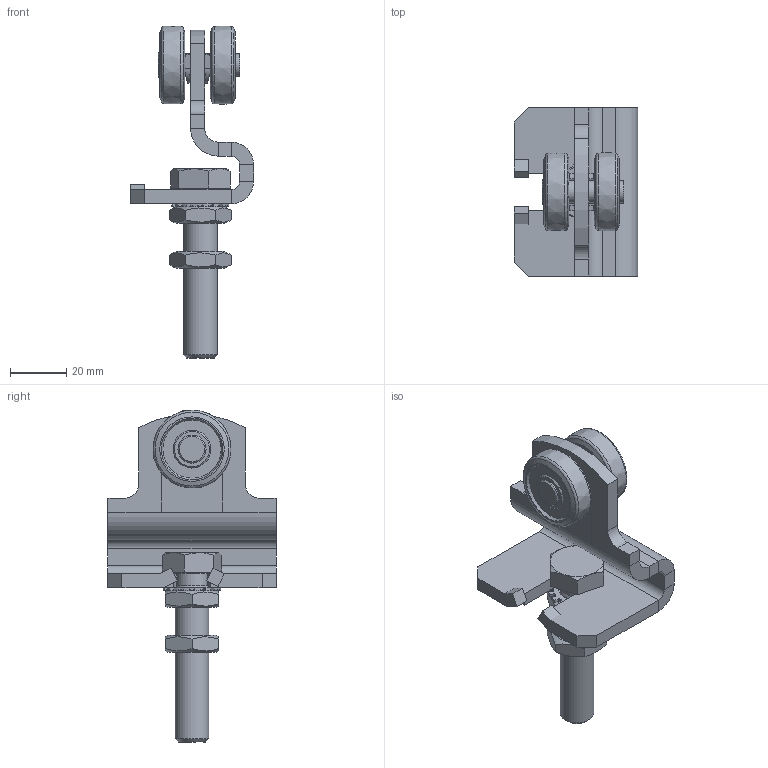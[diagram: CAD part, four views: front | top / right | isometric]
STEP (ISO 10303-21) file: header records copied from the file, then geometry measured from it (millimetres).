
FILE_DESCRIPTION(/* description */ ('Einfachrolle Nr.1 Amoniak'),/* implementation_level */ '2;1');
FILE_NAME(/* name */ 'D:\Public\STP\010336312-TP.stp',/* time_stamp */ '2020-05-13T15:04:16+02:00',/* author */ ('O. Loukota'),/* organization */ (''),/* preprocessor_version */ 'ST-DEVELOPER v17.2',/* originating_system */ 'Autodesk Inventor 2019',/* authorisation */ '');
FILE_SCHEMA (('AUTOMOTIVE_DESIGN { 1 0 10303 214 3 1 1 }'));
Length unit declared in the file: millimetre
Products named in the file (8): 010336312; 337000112; 000303235; 000304011; 336290010; DIN 6798 - A  13; DIN EN ISO 4017 - M12  x 60; DIN EN ISO 4035 - M12
Assembly tree (10 placements, depth 2):
  010336312
    337000112
    000303235  x2
    000304011
    336290010  x2
    DIN EN ISO 4035 - M12  x2
    DIN 6798 - A  13
    DIN EN ISO 4017 - M12  x 60
Bounding box: 44 x 60 x 118.45 mm (x, y, z)
Volume: 49276.2 mm3; surface area: 24148.9 mm2
Topology: 10 solids, 10 shells, 340 faces, 889 edges, 580 vertices
Faces by surface type: plane 190, cylinder 98, cone 33, bspline 14, torus 5
Full cylindrical faces by diameter (mm): 8 x3, 10 x1, 10.106 x2, 11.053 x1, 12 x1, 13 x1, 17.2 x1
Entity records: 9432 total; most frequent: CARTESIAN_POINT 2291, DIRECTION 1502, ORIENTED_EDGE 1422, EDGE_CURVE 711, AXIS2_PLACEMENT_3D 545, VERTEX_POINT 461, LINE 412, VECTOR 412
